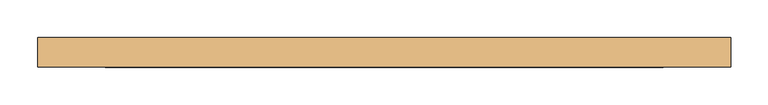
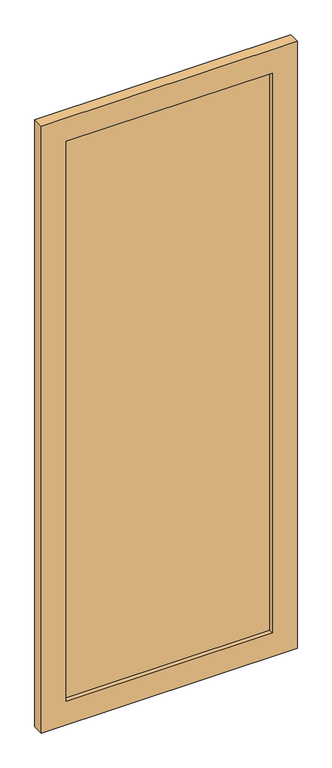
"""IFC4 building model written with IfcOpenShell, lengths in millimetres: door geometry, 32_IM_deurpaneel : 32_IM_deurpaneel_L_KD."""

from ifc_helpers import new_model, si_unit, frame, origin, place, context, project, spatial, polyline, outline, extrude, source, transform, mapped, element, save


def door_8fe75821(model_context):
    return source(origin(), model_context, "Body", "SweptSolid", [
        extrude(outline(polyline([(2324.0, 462.0), (2324.0, -462.0), (10.0, -462.0), (10.0, 462.0), (2324.0, 462.0)]), holes=[polyline([(2234.0, 372.0), (100.0, 372.0), (100.0, -372.0), (2234.0, -372.0), (2234.0, 372.0)])]), frame((0.0, -20.0, 0.0), z_axis=(0.0, 1.0, 0.0), x_axis=(0.0, 0.0, 1.0)), (0.0, 0.0, 1.0), 40.0),
        extrude(outline(polyline([(372.0, -4.0), (-372.0, -4.0), (-372.0, 4.0), (372.0, 4.0), (372.0, -4.0)])), frame((0.0, 0.0, 100.0), z_axis=(0.0, 0.0, 1.0), x_axis=(1.0, 0.0, 0.0)), (0.0, 0.0, 1.0), 2134.0),
    ])


if __name__ == "__main__":
    model = new_model("IFC4")
    model_context = context("Model", 3, world=origin())
    ifc_project = project(units=[si_unit("LENGTHUNIT", "METRE", prefix="MILLI")], contexts=[model_context])
    site = spatial("IfcSite", under=ifc_project)
    building = spatial("IfcBuilding", under=site)
    placement = place(None, origin())
    door_shape = door_8fe75821(model_context)
    element("IfcDoor", 1, ObjectType="32_IM_deurpaneel : 32_IM_deurpaneel_L_KD", at=placement, inside=building, context=model_context, shape_type="MappedRepresentation", body=[
        mapped(door_shape, transform((0.0, 0.0, 0.0), x_axis=(1.0, 0.0, 0.0), y_axis=(0.0, 1.0, 0.0), z_axis=(0.0, 0.0, 1.0))),
    ])
    save(model, "model.ifc")
